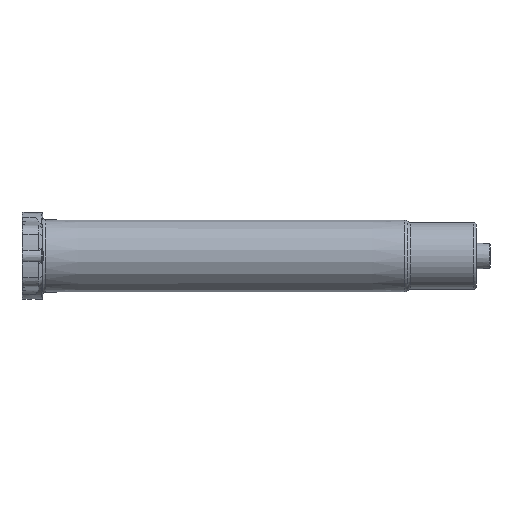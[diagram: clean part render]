
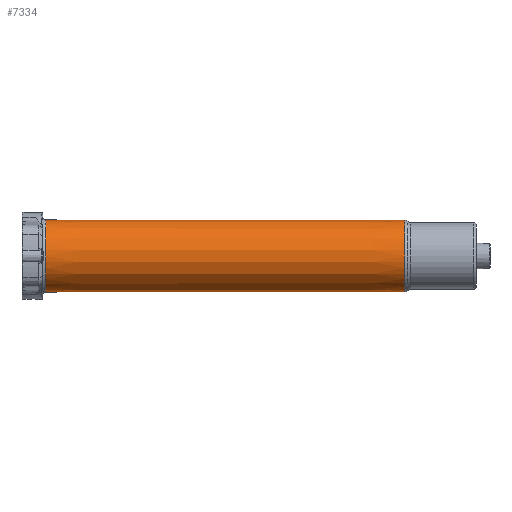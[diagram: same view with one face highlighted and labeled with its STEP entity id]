
A CAD part, left-side view. The second image highlights one B-rep face of the part: STEP entity #7334.
In plain terms, the highlighted conical face has half-angle 0.048 degrees and reference radius 5.717 mm.
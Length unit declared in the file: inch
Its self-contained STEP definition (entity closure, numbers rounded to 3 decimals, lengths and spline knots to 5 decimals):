
#67 = VERTEX_POINT ( 'NONE', #8070 ) ;
#213 = ORIENTED_EDGE ( 'NONE', *, *, #15551, .F. ) ;
#388 = CARTESIAN_POINT ( 'NONE',  ( 0., 0.52382, -0.22508 ) ) ;
#742 = VECTOR ( 'NONE', #12663, 39.37008 ) ;
#1187 = VECTOR ( 'NONE', #11450, 39.37008 ) ;
#1331 = CARTESIAN_POINT ( 'NONE',  ( 0., 0.53818, 0. ) ) ;
#2098 = CIRCLE ( 'NONE', #9798, 0.22509 ) ;
#2268 = CARTESIAN_POINT ( 'NONE',  ( 0., 0.53818, -0.22509 ) ) ;
#2423 = CARTESIAN_POINT ( 'NONE',  ( 0., 2.80002, 0.22698 ) ) ;
#2699 = ORIENTED_EDGE ( 'NONE', *, *, #14767, .T. ) ;
#3857 = ORIENTED_EDGE ( 'NONE', *, *, #9342, .T. ) ;
#4548 = CONICAL_SURFACE ( 'NONE', #13525, 0.22508, 0.001 ) ;
#5257 = DIRECTION ( 'NONE',  ( 0., 0., 1. ) ) ;
#5400 = FACE_OUTER_BOUND ( 'NONE', #7097, .T. ) ;
#6362 = CARTESIAN_POINT ( 'NONE',  ( 0., 0.52382, 0. ) ) ;
#6689 = AXIS2_PLACEMENT_3D ( 'NONE', #15028, #14863, #12382 ) ;
#7097 = EDGE_LOOP ( 'NONE', ( #213, #2699, #11274, #3857 ) ) ;
#7334 = ADVANCED_FACE ( 'NONE', ( #5400 ), #4548, .T. ) ;
#8070 = CARTESIAN_POINT ( 'NONE',  ( 0., 2.80002, -0.22698 ) ) ;
#9342 = EDGE_CURVE ( 'NONE', #12435, #67, #11299, .T. ) ;
#9657 = EDGE_CURVE ( 'NONE', #12184, #12435, #12498, .T. ) ;
#9798 = AXIS2_PLACEMENT_3D ( 'NONE', #1331, #14784, #5257 ) ;
#10032 = CARTESIAN_POINT ( 'NONE',  ( 0., 0.52382, 0.22508 ) ) ;
#10302 = DIRECTION ( 'NONE',  ( 0., 1., 0. ) ) ;
#11274 = ORIENTED_EDGE ( 'NONE', *, *, #9657, .T. ) ;
#11299 = CIRCLE ( 'NONE', #6689, 0.22698 ) ;
#11450 = DIRECTION ( 'NONE',  ( 0., 1., -0.001 ) ) ;
#12184 = VERTEX_POINT ( 'NONE', #12728 ) ;
#12382 = DIRECTION ( 'NONE',  ( 0., 0., 1. ) ) ;
#12435 = VERTEX_POINT ( 'NONE', #2423 ) ;
#12498 = LINE ( 'NONE', #10032, #742 ) ;
#12538 = DIRECTION ( 'NONE',  ( 0., 0., 1. ) ) ;
#12663 = DIRECTION ( 'NONE',  ( 0., 1., 0.001 ) ) ;
#12728 = CARTESIAN_POINT ( 'NONE',  ( 0., 0.53818, 0.22509 ) ) ;
#13525 = AXIS2_PLACEMENT_3D ( 'NONE', #6362, #10302, #12538 ) ;
#14767 = EDGE_CURVE ( 'NONE', #15080, #12184, #2098, .T. ) ;
#14784 = DIRECTION ( 'NONE',  ( 0., 1., 0. ) ) ;
#14806 = LINE ( 'NONE', #388, #1187 ) ;
#14863 = DIRECTION ( 'NONE',  ( 0., -1., 0. ) ) ;
#15028 = CARTESIAN_POINT ( 'NONE',  ( 0., 2.80002, 0. ) ) ;
#15080 = VERTEX_POINT ( 'NONE', #2268 ) ;
#15551 = EDGE_CURVE ( 'NONE', #15080, #67, #14806, .T. ) ;
